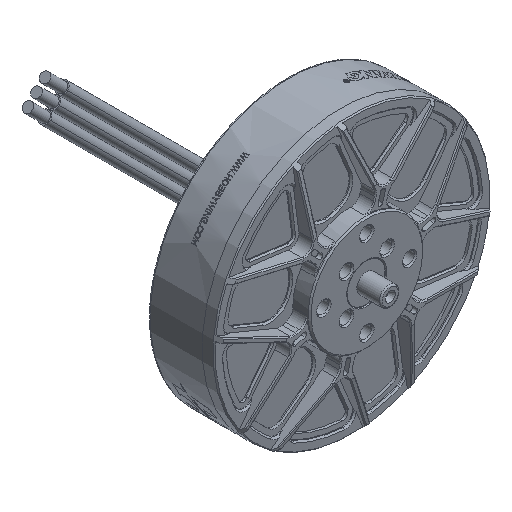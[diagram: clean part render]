
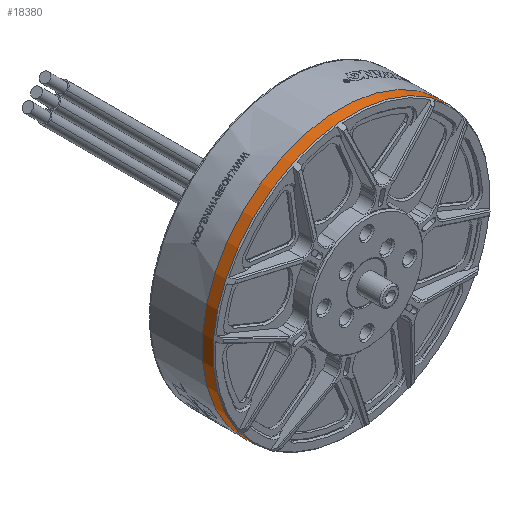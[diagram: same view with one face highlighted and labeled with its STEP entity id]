
A CAD part, isometric view. The second image highlights one B-rep face of the part: STEP entity #18380.
In plain terms, the highlighted cylindrical face has radius 29 mm (diameter 58 mm), a partial arc.
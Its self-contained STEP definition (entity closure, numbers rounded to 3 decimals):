
#9274 = VECTOR ( 'NONE', #77905, 1000. ) ;
#9334 = DIRECTION ( 'NONE',  ( 0., -1., 0. ) ) ;
#11526 = CIRCLE ( 'NONE', #50615, 29. ) ;
#12534 = VERTEX_POINT ( 'NONE', #15243 ) ;
#13742 = AXIS2_PLACEMENT_3D ( 'NONE', #88655, #9334, #66276 ) ;
#15243 = CARTESIAN_POINT ( 'NONE',  ( -20.506, -3.343, 20.506 ) ) ;
#17161 = DIRECTION ( 'NONE',  ( -0.707, 0., -0.707 ) ) ;
#17876 = DIRECTION ( 'NONE',  ( 0.707, 0., 0.707 ) ) ;
#18380 = ADVANCED_FACE ( 'NONE', ( #25821 ), #56255, .T. ) ;
#19882 = CARTESIAN_POINT ( 'NONE',  ( 20.506, -1.1, 20.506 ) ) ;
#20141 = VECTOR ( 'NONE', #26357, 1000. ) ;
#25161 = CARTESIAN_POINT ( 'NONE',  ( 0., -1.1, 0. ) ) ;
#25821 = FACE_OUTER_BOUND ( 'NONE', #41526, .T. ) ;
#26357 = DIRECTION ( 'NONE',  ( 0., -1., 0. ) ) ;
#28657 = ORIENTED_EDGE ( 'NONE', *, *, #64480, .F. ) ;
#29494 = CARTESIAN_POINT ( 'NONE',  ( -20.506, -6.6, -20.506 ) ) ;
#32236 = EDGE_CURVE ( 'NONE', #12534, #59919, #93681, .T. ) ;
#33617 = CARTESIAN_POINT ( 'NONE',  ( 0., -3.343, 0. ) ) ;
#35180 = ORIENTED_EDGE ( 'NONE', *, *, #32236, .F. ) ;
#38602 = ORIENTED_EDGE ( 'NONE', *, *, #80609, .F. ) ;
#41526 = EDGE_LOOP ( 'NONE', ( #28657, #38602, #51003, #35180, #65734 ) ) ;
#41742 = CIRCLE ( 'NONE', #57033, 29. ) ;
#42136 = DIRECTION ( 'NONE',  ( 0.707, 0., 0.707 ) ) ;
#47658 = VERTEX_POINT ( 'NONE', #92092 ) ;
#47834 = EDGE_CURVE ( 'NONE', #47658, #12534, #11526, .T. ) ;
#50361 = LINE ( 'NONE', #82765, #20141 ) ;
#50615 = AXIS2_PLACEMENT_3D ( 'NONE', #59424, #74822, #17876 ) ;
#51003 = ORIENTED_EDGE ( 'NONE', *, *, #103451, .T. ) ;
#56255 = CYLINDRICAL_SURFACE ( 'NONE', #13742, 29. ) ;
#57033 = AXIS2_PLACEMENT_3D ( 'NONE', #25161, #59244, #17161 ) ;
#57281 = CARTESIAN_POINT ( 'NONE',  ( -20.506, -1.1, -20.506 ) ) ;
#57604 = DIRECTION ( 'NONE',  ( 0., -1., 0. ) ) ;
#59244 = DIRECTION ( 'NONE',  ( 0., 1., 0. ) ) ;
#59424 = CARTESIAN_POINT ( 'NONE',  ( 0., -3.343, 0. ) ) ;
#59589 = VERTEX_POINT ( 'NONE', #57281 ) ;
#59919 = VERTEX_POINT ( 'NONE', #95977 ) ;
#64480 = EDGE_CURVE ( 'NONE', #95600, #47658, #50361, .T. ) ;
#65734 = ORIENTED_EDGE ( 'NONE', *, *, #47834, .F. ) ;
#66276 = DIRECTION ( 'NONE',  ( -0.707, 0., -0.707 ) ) ;
#66469 = AXIS2_PLACEMENT_3D ( 'NONE', #33617, #57604, #42136 ) ;
#74822 = DIRECTION ( 'NONE',  ( 0., -1., 0. ) ) ;
#77905 = DIRECTION ( 'NONE',  ( 0., -1., 0. ) ) ;
#80609 = EDGE_CURVE ( 'NONE', #59589, #95600, #41742, .T. ) ;
#82765 = CARTESIAN_POINT ( 'NONE',  ( 20.506, -6.6, 20.506 ) ) ;
#88655 = CARTESIAN_POINT ( 'NONE',  ( 0., -6.6, 0. ) ) ;
#92092 = CARTESIAN_POINT ( 'NONE',  ( 20.506, -3.343, 20.506 ) ) ;
#93681 = CIRCLE ( 'NONE', #66469, 29. ) ;
#95600 = VERTEX_POINT ( 'NONE', #19882 ) ;
#95977 = CARTESIAN_POINT ( 'NONE',  ( -20.506, -3.343, -20.506 ) ) ;
#102399 = LINE ( 'NONE', #29494, #9274 ) ;
#103451 = EDGE_CURVE ( 'NONE', #59589, #59919, #102399, .T. ) ;
